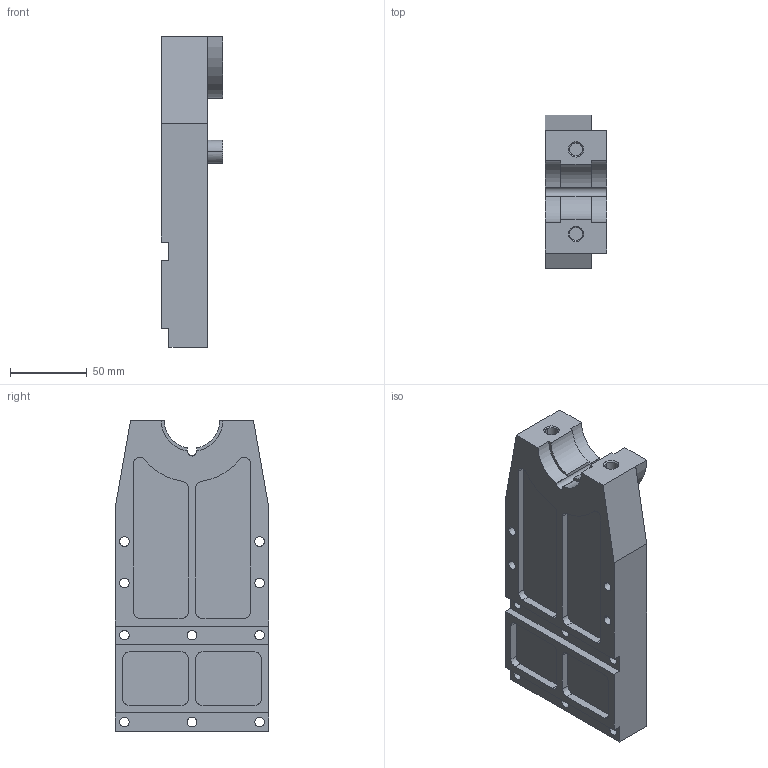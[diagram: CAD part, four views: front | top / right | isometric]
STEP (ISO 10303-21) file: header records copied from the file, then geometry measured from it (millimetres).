
FILE_DESCRIPTION(/* description */ ('VariCAD 2010-3.03 AP-214'),/* implementation_level */ '2;1');
FILE_NAME(/* name */ '0353-22-03',/* time_stamp */ '2011-06-28T18:34:45-06:00',/* author */ (''),/* organization */ (''),/* preprocessor_version */ 'ST-DEVELOPER v12',/* originating_system */ 'VariCAD 2010-3.03; kernel version (20100102)',/* authorisation */ '');
FILE_SCHEMA (('AUTOMOTIVE_DESIGN'));
Length unit declared in the file: millimetre
Products named in the file (1): Part
Bounding box: 40 x 100 x 202.29 mm (x, y, z)
Volume: 269812.2 mm3; surface area: 97138.8 mm2
Topology: 4 solids, 4 shells, 250 faces, 646 edges, 424 vertices
Faces by surface type: cylinder 158, plane 86, cone 6
Entity records: 9610 total; most frequent: DIRECTION 1472, CARTESIAN_POINT 1325, ORIENTED_EDGE 1292, EDGE_CURVE 646, AXIS2_PLACEMENT_3D 571, VERTEX_POINT 424, LINE 330, VECTOR 330
